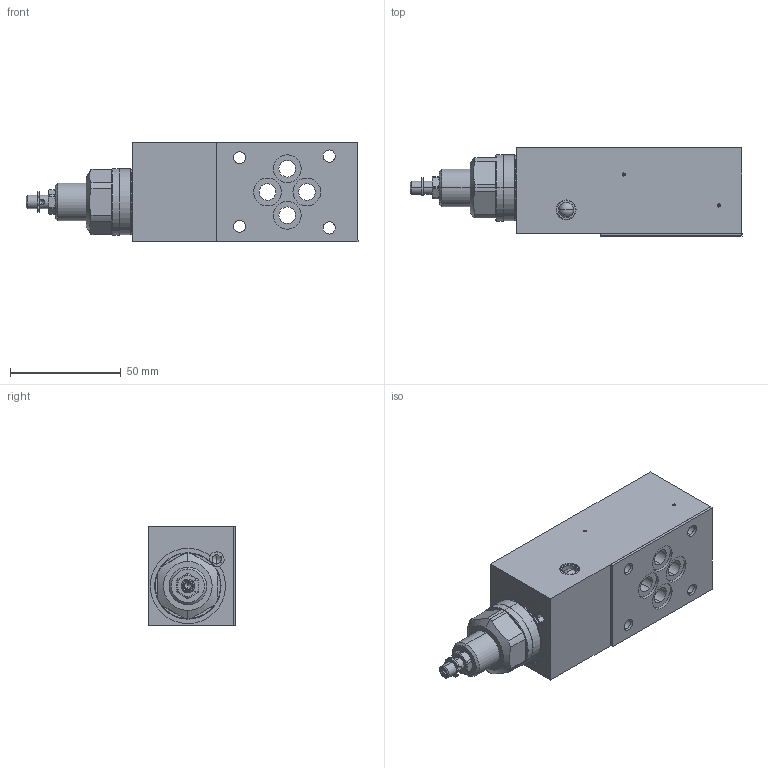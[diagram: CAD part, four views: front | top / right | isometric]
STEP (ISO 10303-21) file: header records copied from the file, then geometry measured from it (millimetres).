
FILE_DESCRIPTION (( 'STEP AP214' ), '1' );
FILE_NAME ('QZSSA06-AV.STEP', '2017-04-19T11:17:31', ( '' ), ( '' ), 'SwSTEP 2.0', 'SolidWorks 2016', '' );
FILE_SCHEMA (( 'AUTOMOTIVE_DESIGN' ));
Length unit declared in the file: millimetre
Products named in the file (1): QZSSA06-AV
Bounding box: 150.1 x 39.75 x 45 mm (x, y, z)
Volume: 185123.3 mm3; surface area: 37037.4 mm2
Topology: 4 solids, 7 shells, 305 faces, 759 edges, 470 vertices
Faces by surface type: cylinder 118, plane 112, cone 52, torus 10, bspline 9, sphere 4
Entity records: 13165 total; most frequent: CARTESIAN_POINT 2402, DIRECTION 1590, ORIENTED_EDGE 1486, EDGE_CURVE 743, AXIS2_PLACEMENT_3D 622, VERTEX_POINT 470, EDGE_LOOP 363, LINE 346
